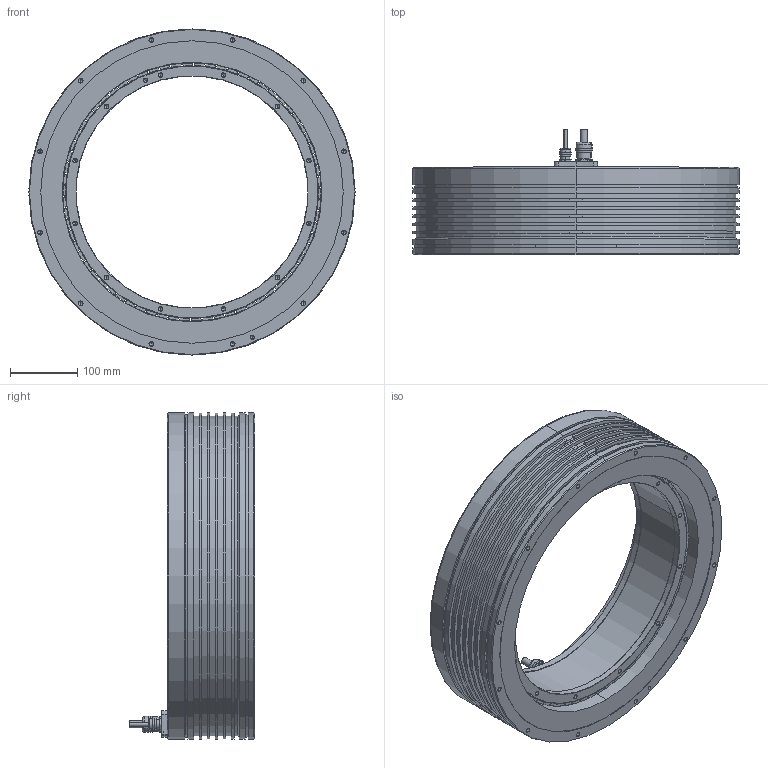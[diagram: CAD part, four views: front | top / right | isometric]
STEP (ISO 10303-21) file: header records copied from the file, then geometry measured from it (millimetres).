
FILE_DESCRIPTION (( 'STEP AP214' ), '1' );
FILE_NAME ('TORQUE KIT QMT HA 485-130-I-AX.STEP', '2025-09-30T11:47:47', ( '' ), ( '' ), 'SwSTEP 2.0', 'SolidWorks 2023', '' );
FILE_SCHEMA (( 'AUTOMOTIVE_DESIGN' ));
Length unit declared in the file: millimetre
Products named in the file (21): Cable Connection; Gland; Resin; Rotor Glued; Cooling Ring; Magnet; Screw; Cable Clamp; Cable; TORQUE KIT QMT HA 485-130-I-AX; Stator; Rotor; Housing-BO; Housing; Rotor Ring
Assembly tree (90 placements, depth 6):
  TORQUE KIT QMT HA 485-130-I-AX
    Stator
      Stator
        Housing
          Housing-BO
            Cooling Ring
        Cable Connection
          Cable Connection
          Cable
          Cable
        Resin
      Cable Clamp
        Cable Clamp
        Gland
        Gland
      Screw  x3
    Rotor
      Rotor Glued
        Rotor Ring
        Magnet  x35
        Magnet  x35
Bounding box: 485 x 187.1 x 485 mm (x, y, z)
Volume: 10205785.3 mm3; surface area: 1491667.2 mm2
Topology: 82 solids, 82 shells, 3015 faces, 6873 edges, 3739 vertices
Faces by surface type: cylinder 1289, sphere 700, plane 500, torus 310, cone 216
Entity records: 32381 total; most frequent: DIRECTION 4707, CARTESIAN_POINT 4706, ORIENTED_EDGE 3870, AXIS2_PLACEMENT_3D 1946, EDGE_CURVE 1935, VERTEX_POINT 1217, EDGE_LOOP 1000, CIRCLE 992
